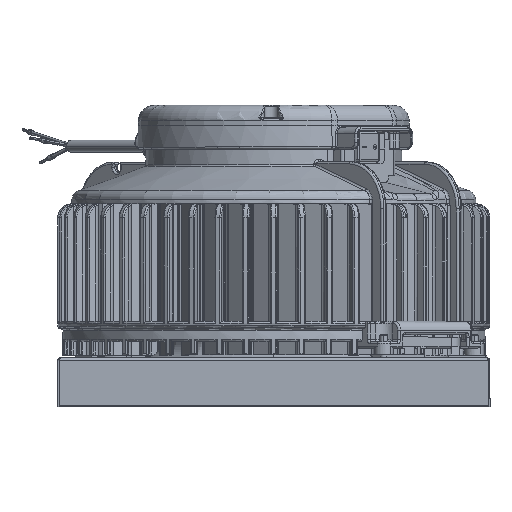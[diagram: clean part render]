
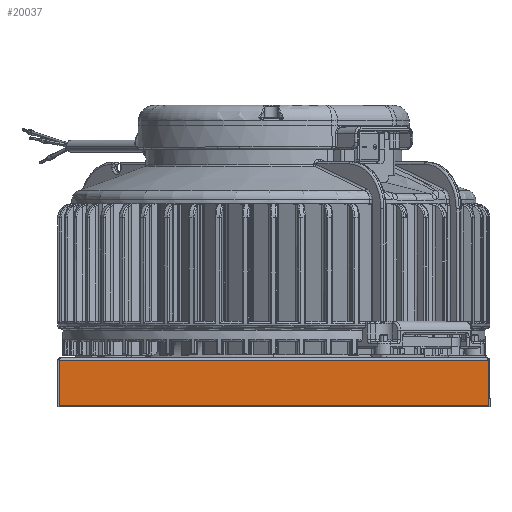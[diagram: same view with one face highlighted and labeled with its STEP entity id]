
A CAD part, top view. The second image highlights one B-rep face of the part: STEP entity #20037.
In plain terms, the highlighted planar face has unit normal (0, 0, 1).
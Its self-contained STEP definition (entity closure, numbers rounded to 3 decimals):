
#20037 = ADVANCED_FACE ( 'NONE', ( #84214 ), #65537, .F. ) ;
#33819 = AXIS2_PLACEMENT_3D ( 'NONE', #65295, #65545, #65554 ) ;
#46805 = CARTESIAN_POINT ( 'NONE',  ( -159.4, -34.9, 160.5 ) ) ;
#46825 = CARTESIAN_POINT ( 'NONE',  ( -159.4, -1.3, 160.5 ) ) ;
#46924 = CARTESIAN_POINT ( 'NONE',  ( 159.4, -34.9, 160.5 ) ) ;
#47061 = CARTESIAN_POINT ( 'NONE',  ( 159.4, -1.3, 160.5 ) ) ;
#59278 = EDGE_CURVE ( 'NONE', #98972, #98528, #80382, .T. ) ;
#59303 = EDGE_CURVE ( 'NONE', #98141, #98090, #78618, .T. ) ;
#59319 = EDGE_CURVE ( 'NONE', #98528, #98090, #78621, .T. ) ;
#59330 = EDGE_CURVE ( 'NONE', #98141, #98972, #78451, .T. ) ;
#65295 = CARTESIAN_POINT ( 'NONE',  ( 160.5, 0., 160.5 ) ) ;
#65537 = PLANE ( 'NONE',  #33819 ) ;
#65545 = DIRECTION ( 'NONE',  ( 0., 0., -1. ) ) ;
#65554 = DIRECTION ( 'NONE',  ( 0., -1., 0. ) ) ;
#78441 = VECTOR ( 'NONE', #79133, 1000. ) ;
#78451 = LINE ( 'NONE', #79130, #78441 ) ;
#78618 = LINE ( 'NONE', #78970, #79469 ) ;
#78621 = LINE ( 'NONE', #79070, #79510 ) ;
#78905 = CARTESIAN_POINT ( 'NONE',  ( 159.4, 0., 160.5 ) ) ;
#78946 = DIRECTION ( 'NONE',  ( 0., -1., 0. ) ) ;
#78970 = CARTESIAN_POINT ( 'NONE',  ( -159.4, 0., 160.5 ) ) ;
#79035 = DIRECTION ( 'NONE',  ( 0., -1., 0. ) ) ;
#79069 = DIRECTION ( 'NONE',  ( -1., 0., 0. ) ) ;
#79070 = CARTESIAN_POINT ( 'NONE',  ( 160.5, -34.9, 160.5 ) ) ;
#79130 = CARTESIAN_POINT ( 'NONE',  ( 160.5, -1.3, 160.5 ) ) ;
#79133 = DIRECTION ( 'NONE',  ( 1., 0., 0. ) ) ;
#79469 = VECTOR ( 'NONE', #79035, 1000. ) ;
#79510 = VECTOR ( 'NONE', #79069, 1000. ) ;
#79841 = VECTOR ( 'NONE', #78946, 1000. ) ;
#80382 = LINE ( 'NONE', #78905, #79841 ) ;
#84214 = FACE_OUTER_BOUND ( 'NONE', #98807, .T. ) ;
#97910 = ORIENTED_EDGE ( 'NONE', *, *, #59319, .F. ) ;
#97926 = ORIENTED_EDGE ( 'NONE', *, *, #59278, .F. ) ;
#97950 = ORIENTED_EDGE ( 'NONE', *, *, #59303, .T. ) ;
#97952 = ORIENTED_EDGE ( 'NONE', *, *, #59330, .F. ) ;
#98090 = VERTEX_POINT ( 'NONE', #46805 ) ;
#98141 = VERTEX_POINT ( 'NONE', #46825 ) ;
#98528 = VERTEX_POINT ( 'NONE', #46924 ) ;
#98807 = EDGE_LOOP ( 'NONE', ( #97952, #97950, #97910, #97926 ) ) ;
#98972 = VERTEX_POINT ( 'NONE', #47061 ) ;
